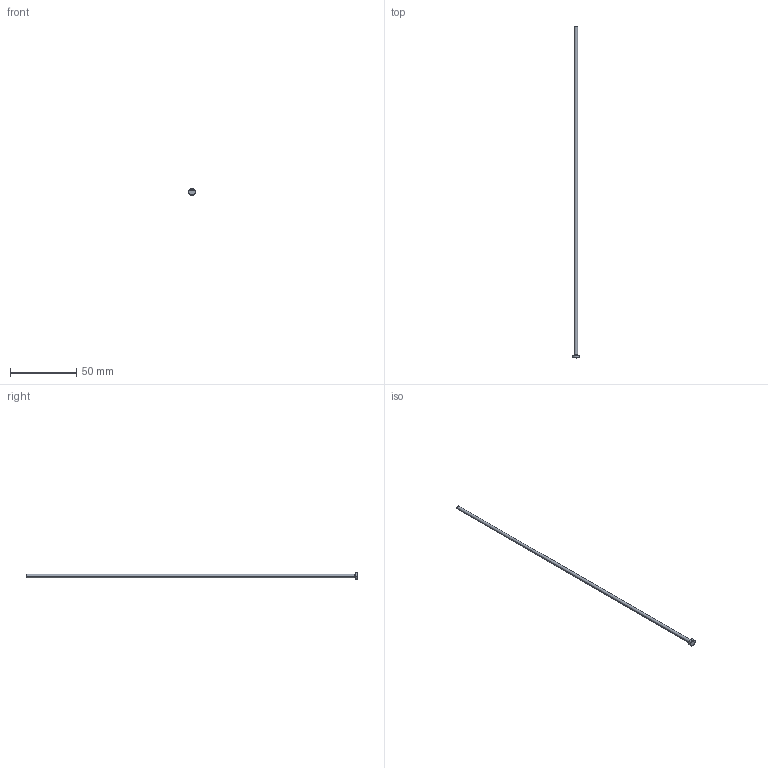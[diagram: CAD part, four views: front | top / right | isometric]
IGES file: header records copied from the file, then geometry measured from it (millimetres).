
Start section: SolidWorks IGES file using analytic representation for surfaces
Global section: file name: C:\Users\User\Downloads\Matripeça 31-08 tar\PB - PINO EXTRATOR TIPO _B_ (CATÁLOGO)\PB02,5\PB02,5250.IGS; native system: SolidWorks 2024; preprocessor: SolidWorks 2024; author: User; date: 260901.141136; units: millimetre
Bounding box: 5 x 250 x 5 mm (x, y, z)
Surface area: 2021.5 mm2 (no closed solid volume)
Topology: 0 solids, 0 shells, 408 faces, 3104 edges, 3104 vertices
Faces by surface type: bspline 394, revolution 14
